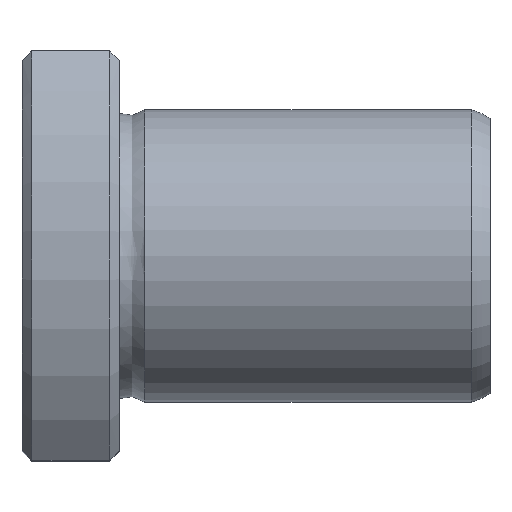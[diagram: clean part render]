
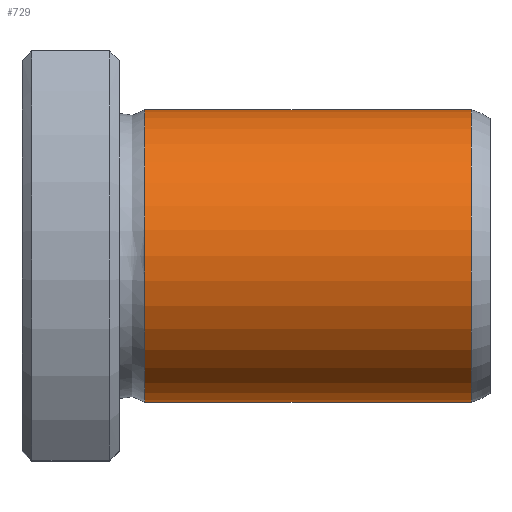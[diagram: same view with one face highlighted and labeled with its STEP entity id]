
A CAD part, top view. The second image highlights one B-rep face of the part: STEP entity #729.
In plain terms, the highlighted cylindrical face has radius 7.5 mm (diameter 15 mm), a full revolution.
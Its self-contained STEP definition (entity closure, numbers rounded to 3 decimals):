
#695=CARTESIAN_POINT('',(23.043,0.0,7.5));
#696=VERTEX_POINT('',#695);
#697=CARTESIAN_POINT('',(23.043,0.0,0.0));
#698=DIRECTION('',(-1.0,0.0,0.0));
#699=DIRECTION('',(0.0,0.0,1.0));
#700=AXIS2_PLACEMENT_3D('',#697,#698,#699);
#701=CIRCLE('',#700,7.5);
#702=EDGE_CURVE('',#696,#696,#701,.T.);
#710=CARTESIAN_POINT('',(14.668,0.0,0.0));
#711=DIRECTION('',(-1.0,0.0,0.0));
#712=DIRECTION('',(0.0,0.0,1.0));
#713=AXIS2_PLACEMENT_3D('',#710,#711,#712);
#714=CYLINDRICAL_SURFACE('',#713,7.5);
#715=CARTESIAN_POINT('',(6.294,0.0,7.5));
#716=VERTEX_POINT('',#715);
#717=CARTESIAN_POINT('',(6.294,0.0,0.0));
#718=DIRECTION('',(-1.0,0.0,0.0));
#719=DIRECTION('',(0.0,0.0,1.0));
#720=AXIS2_PLACEMENT_3D('',#717,#718,#719);
#721=CIRCLE('',#720,7.5);
#722=EDGE_CURVE('',#716,#716,#721,.T.);
#723=ORIENTED_EDGE('',*,*,#722,.F.);
#724=EDGE_LOOP('',(#723));
#725=FACE_OUTER_BOUND('',#724,.T.);
#726=ORIENTED_EDGE('',*,*,#702,.T.);
#727=EDGE_LOOP('',(#726));
#728=FACE_BOUND('',#727,.T.);
#729=ADVANCED_FACE('',(#725,#728),#714,.T.);
